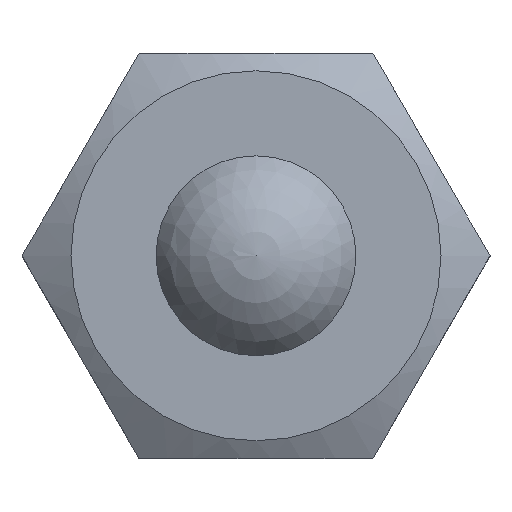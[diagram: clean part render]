
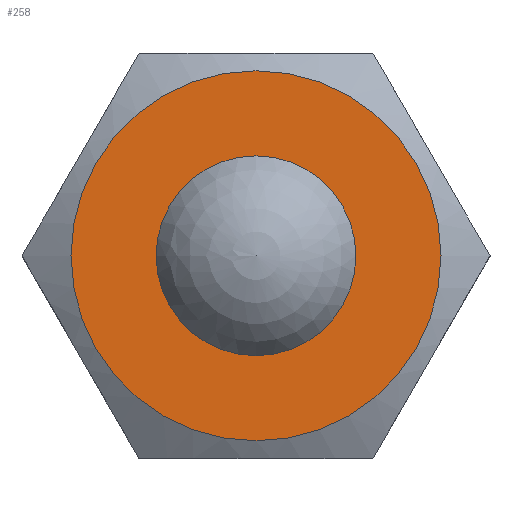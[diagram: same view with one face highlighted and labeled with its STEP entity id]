
A CAD part, top view. The second image highlights one B-rep face of the part: STEP entity #258.
In plain terms, the highlighted planar face has unit normal (0, 0, 1).
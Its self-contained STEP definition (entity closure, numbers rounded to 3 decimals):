
#23=FACE_BOUND('',#68,.T.);
#33=PLANE('',#304);
#50=FACE_OUTER_BOUND('',#67,.T.);
#67=EDGE_LOOP('',(#229));
#68=EDGE_LOOP('',(#230));
#113=CIRCLE('',#294,7.76);
#114=CIRCLE('',#302,4.191);
#124=VERTEX_POINT('',#405);
#137=VERTEX_POINT('',#457);
#150=EDGE_CURVE('',#124,#124,#113,.T.);
#170=EDGE_CURVE('',#137,#137,#114,.T.);
#229=ORIENTED_EDGE('',*,*,#150,.T.);
#230=ORIENTED_EDGE('',*,*,#170,.T.);
#258=ADVANCED_FACE('',(#50,#23),#33,.T.);
#294=AXIS2_PLACEMENT_3D('',#406,#339,#340);
#302=AXIS2_PLACEMENT_3D('',#458,#368,#369);
#304=AXIS2_PLACEMENT_3D('',#461,#372,#373);
#339=DIRECTION('center_axis',(0.,0.,1.));
#340=DIRECTION('ref_axis',(1.,0.,0.));
#368=DIRECTION('center_axis',(0.,0.,-1.));
#369=DIRECTION('ref_axis',(1.,0.,0.));
#372=DIRECTION('center_axis',(0.,0.,1.));
#373=DIRECTION('ref_axis',(1.,0.,0.));
#405=CARTESIAN_POINT('',(-7.76,0.,22.));
#406=CARTESIAN_POINT('Origin',(0.,0.,22.));
#457=CARTESIAN_POINT('',(-4.191,0.,22.));
#458=CARTESIAN_POINT('Origin',(0.,0.,22.));
#461=CARTESIAN_POINT('Origin',(0.,10.,22.));
